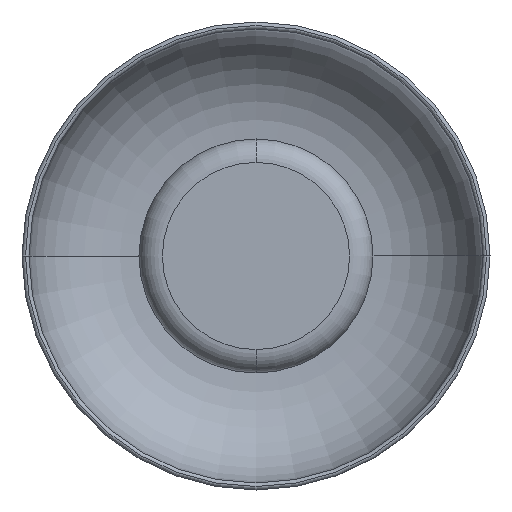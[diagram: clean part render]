
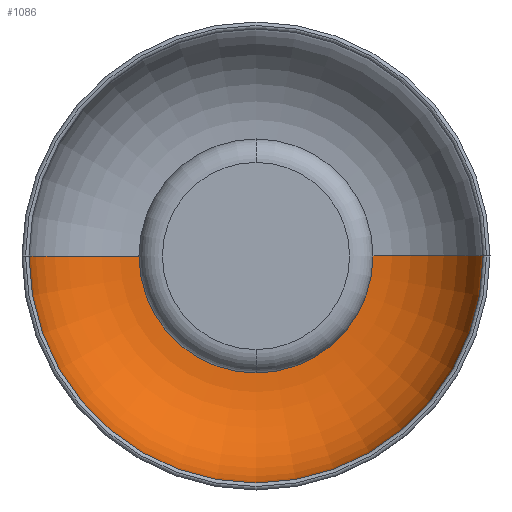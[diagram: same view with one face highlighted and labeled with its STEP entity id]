
A CAD part, front view. The second image highlights one B-rep face of the part: STEP entity #1086.
In plain terms, the highlighted toroidal (fillet/blend) face has major radius 50 mm and minor radius 47 mm.
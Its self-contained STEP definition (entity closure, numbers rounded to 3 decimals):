
#77 = VERTEX_POINT ( 'NONE', #497 ) ;
#125 = AXIS2_PLACEMENT_3D ( 'NONE', #778, #271, #196 ) ;
#137 = EDGE_CURVE ( 'NONE', #738, #77, #496, .T. ) ;
#169 = DIRECTION ( 'NONE',  ( 0., 0., -1. ) ) ;
#178 = CIRCLE ( 'NONE', #1005, 47. ) ;
#196 = DIRECTION ( 'NONE',  ( -1., 0., 0. ) ) ;
#207 = DIRECTION ( 'NONE',  ( -1., 0., 0. ) ) ;
#232 = VERTEX_POINT ( 'NONE', #537 ) ;
#263 = EDGE_LOOP ( 'NONE', ( #493, #1019, #1053, #819 ) ) ;
#271 = DIRECTION ( 'NONE',  ( 0., 1., 0. ) ) ;
#299 = DIRECTION ( 'NONE',  ( -1., 0., 0. ) ) ;
#317 = TOROIDAL_SURFACE ( 'NONE', #663, 50., 47. ) ;
#359 = CARTESIAN_POINT ( 'NONE',  ( 50., 27., 0. ) ) ;
#448 = CARTESIAN_POINT ( 'NONE',  ( 50., -20., 0. ) ) ;
#466 = AXIS2_PLACEMENT_3D ( 'NONE', #707, #870, #207 ) ;
#468 = CARTESIAN_POINT ( 'NONE',  ( 0., -20., 0. ) ) ;
#493 = ORIENTED_EDGE ( 'NONE', *, *, #771, .F. ) ;
#496 = CIRCLE ( 'NONE', #125, 50. ) ;
#497 = CARTESIAN_POINT ( 'NONE',  ( -50., 27., 0. ) ) ;
#511 = EDGE_CURVE ( 'NONE', #839, #77, #178, .T. ) ;
#535 = DIRECTION ( 'NONE',  ( 1., 0., 0. ) ) ;
#537 = CARTESIAN_POINT ( 'NONE',  ( 97., -20., 0. ) ) ;
#663 = AXIS2_PLACEMENT_3D ( 'NONE', #468, #897, #299 ) ;
#707 = CARTESIAN_POINT ( 'NONE',  ( 0., -20., 0. ) ) ;
#734 = EDGE_CURVE ( 'NONE', #232, #738, #1100, .T. ) ;
#738 = VERTEX_POINT ( 'NONE', #359 ) ;
#771 = EDGE_CURVE ( 'NONE', #232, #839, #969, .T. ) ;
#778 = CARTESIAN_POINT ( 'NONE',  ( 0., 27., 0. ) ) ;
#783 = DIRECTION ( 'NONE',  ( 0., 0., 1. ) ) ;
#792 = FACE_OUTER_BOUND ( 'NONE', #263, .T. ) ;
#819 = ORIENTED_EDGE ( 'NONE', *, *, #511, .F. ) ;
#831 = CARTESIAN_POINT ( 'NONE',  ( -97., -20., 0. ) ) ;
#839 = VERTEX_POINT ( 'NONE', #831 ) ;
#870 = DIRECTION ( 'NONE',  ( 0., 1., 0. ) ) ;
#897 = DIRECTION ( 'NONE',  ( 0., 1., 0. ) ) ;
#926 = CARTESIAN_POINT ( 'NONE',  ( -50., -20., 0. ) ) ;
#969 = CIRCLE ( 'NONE', #466, 97. ) ;
#1005 = AXIS2_PLACEMENT_3D ( 'NONE', #926, #169, #1020 ) ;
#1019 = ORIENTED_EDGE ( 'NONE', *, *, #734, .T. ) ;
#1020 = DIRECTION ( 'NONE',  ( -1., 0., 0. ) ) ;
#1026 = AXIS2_PLACEMENT_3D ( 'NONE', #448, #783, #535 ) ;
#1053 = ORIENTED_EDGE ( 'NONE', *, *, #137, .T. ) ;
#1086 = ADVANCED_FACE ( 'NONE', ( #792 ), #317, .F. ) ;
#1100 = CIRCLE ( 'NONE', #1026, 47. ) ;
